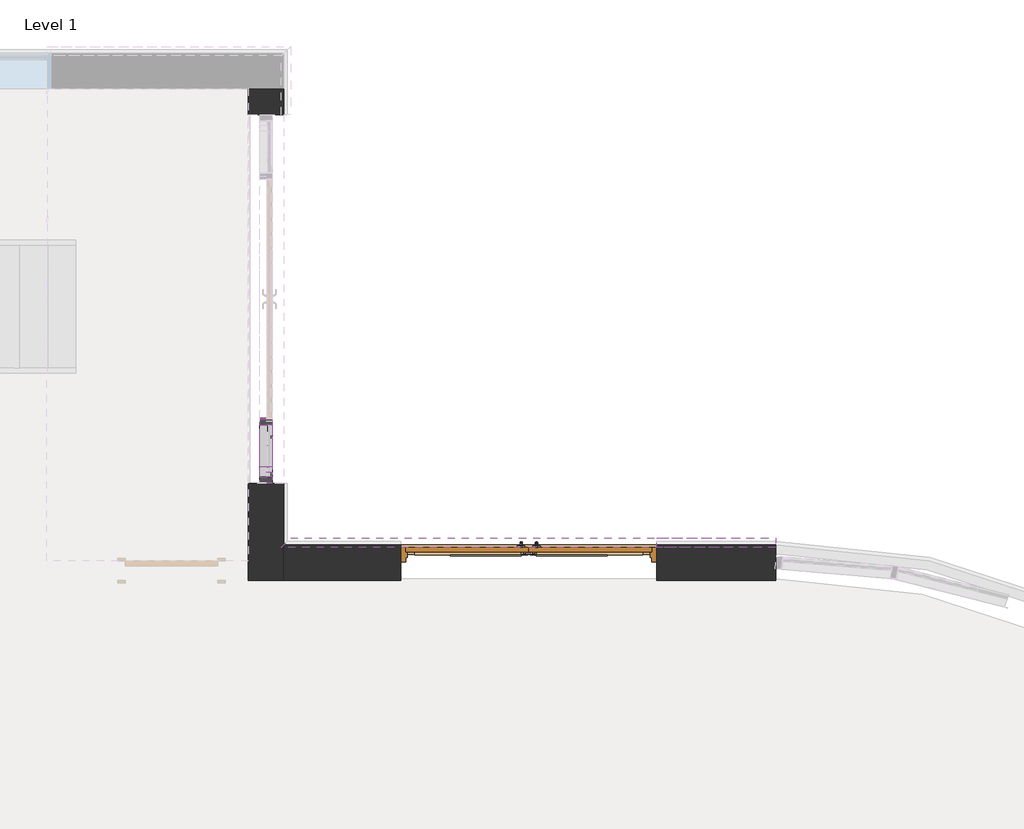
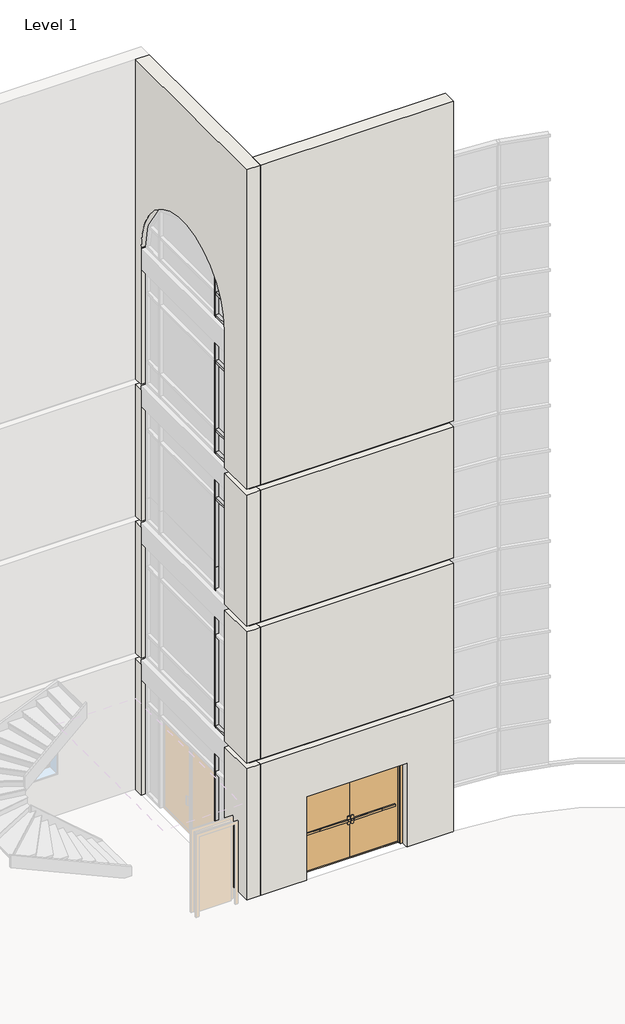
# One storey, part 11 of 20: 37 members, 3 proxies, 2 walls, 1 door.
"""IFC4 building model written with IfcOpenShell, lengths in millimetres."""

from ifc_helpers import new_model, si_unit, frame, origin, place, context, project, spatial, polyline, circle_curve, outline, extrude, faceted_brep, transform, mapped, element, save
from ifc_brep_helpers import plane_surface, revolved_surface, advanced_brep
from components import door_d5635643, member_f0fea5a5, member_ee409385, member_51170729, member_d60e8053, member_a025723f, member_aaa03826, member_47a645d3, member_cceb8e04, member_b7f7ac7a, member_94fbf6e3, member_0b7646a3, member_dad99500, member_2fae0574

model = new_model("IFC4")

# Units and contexts
model_context = context("Model", 3, world=origin())
ifc_project = project(units=[si_unit("LENGTHUNIT", "METRE", prefix="MILLI")], contexts=[model_context])

# Site, building, storey
site = spatial("IfcSite", under=ifc_project)
building = spatial("IfcBuilding", under=site)
storey = spatial("IfcBuildingStorey", under=building, Name="Level 1", Elevation=0.0)

# Proxies
placement = place(None, origin())
element("IfcBuildingElementProxy", 1, Name="Reveals", at=placement, inside=storey, context=model_context, shape_type="SweptSolid", body=[
    extrude(outline(polyline([(16760.0089721, 4783.9898319), (16760.0089721, 4876.0648319), (17937.9339721, 4876.0648319), (17937.9339721, 4783.9898319), (16760.0089721, 4783.9898319)])), frame((0.0, 0.0, 1625.6), z_axis=(0.0, 0.0, 1.0), x_axis=(1.0, 0.0, 0.0)), (0.0, 0.0, 1.0), 67.7333333),
    extrude(outline(polyline([(13035.7339721, 4783.9898319), (13127.8089721, 4876.0648319), (14220.0089721, 4876.0648319), (14220.0089721, 4783.9898319), (13035.7339721, 4783.9898319)])), frame((0.0, 0.0, 1625.6), z_axis=(0.0, 0.0, 1.0), x_axis=(1.0, 0.0, 0.0)), (0.0, 0.0, 1.0), 67.7333333),
])
element("IfcBuildingElementProxy", 2, Name="Reveals", at=placement, inside=storey, context=model_context, shape_type="SweptSolid", body=[
    extrude(outline(polyline([(13035.7339721, 4783.9898319), (13127.8089721, 4876.0648319), (17937.9339721, 4876.0648319), (17937.9339721, 4783.9898319), (13035.7339721, 4783.9898319)])), frame((0.0, 0.0, 2235.2), z_axis=(0.0, 0.0, 1.0), x_axis=(1.0, 0.0, 0.0)), (0.0, 0.0, 1.0), 67.7333333),
])
element("IfcBuildingElementProxy", 3, Name="Reveals", at=placement, inside=storey, context=model_context, shape_type="SweptSolid", body=[
    extrude(outline(polyline([(13035.7339721, 4783.9898319), (13127.8089721, 4876.0648319), (17937.9339721, 4876.0648319), (17937.9339721, 4783.9898319), (13035.7339721, 4783.9898319)])), frame((0.0, 0.0, 2844.8), z_axis=(0.0, 0.0, 1.0), x_axis=(1.0, 0.0, 0.0)), (0.0, 0.0, 1.0), 67.7333333),
])

# Door
door_shape = door_d5635643(model_context)
element("IfcDoor", 4, ObjectType="Door-Exterior-Double : 96\" x 84\"", at=placement, inside=storey, context=model_context, shape_type="MappedRepresentation", body=[
    mapped(door_shape, transform((15490.0089721, 4626.8273319, 0.0), x_axis=(1.0, 0.0, 0.0), y_axis=(0.0, 1.0, 0.0), z_axis=(0.0, 0.0, 1.0))),
])

# Members
member_shape = member_f0fea5a5(model_context)
element("IfcMember", 5, ObjectType="Rectangular Mullion : 2.5\" x 5\" rectangular", at=placement, inside=storey, context=model_context, shape_type="MappedRepresentation", body=[
    mapped(member_shape, transform((12884.9214721, 6028.5898319, 0.0), x_axis=(0.0, 1.0, 0.0), y_axis=(1.0, 0.0, 0.0), z_axis=(0.0, 0.0, -1.0))),
])
member_2_shape = member_ee409385(model_context)
element("IfcMember", 6, ObjectType="Rectangular Mullion : 2.5\" x 5\" rectangular", at=placement, inside=storey, context=model_context, shape_type="MappedRepresentation", body=[
    mapped(member_2_shape, transform((12884.9214721, 5418.9898319, 2438.4), x_axis=(0.0, -1.0, 0.0), y_axis=(1.0, 0.0, 0.0), z_axis=(0.0, 0.0, 1.0))),
])
member_3_shape = member_51170729(model_context)
element("IfcMember", 7, ObjectType="Rectangular Mullion : 2.5\" x 5\" rectangular", at=placement, inside=storey, context=model_context, shape_type="MappedRepresentation", body=[
    mapped(member_3_shape, transform((12884.9214721, 6028.5898319, 13411.2), x_axis=(0.0, 1.0, 0.0), y_axis=(1.0, 0.0, 0.0), z_axis=(0.0, 0.0, -1.0))),
])
element("IfcMember", 8, ObjectType="Rectangular Mullion : 2.5\" x 5\" rectangular", at=placement, inside=storey, context=model_context, shape_type="MappedRepresentation", body=[
    mapped(member_3_shape, transform((12884.9214721, 6028.5898319, 9753.6), x_axis=(0.0, 1.0, 0.0), y_axis=(1.0, 0.0, 0.0), z_axis=(0.0, 0.0, -1.0))),
])
element("IfcMember", 9, ObjectType="Rectangular Mullion : 2.5\" x 5\" rectangular", at=placement, inside=storey, context=model_context, shape_type="MappedRepresentation", body=[
    mapped(member_3_shape, transform((12884.9214721, 6028.5898319, 6096.0), x_axis=(0.0, 1.0, 0.0), y_axis=(1.0, 0.0, 0.0), z_axis=(0.0, 0.0, -1.0))),
])
element("IfcMember", 10, ObjectType="Rectangular Mullion : 2.5\" x 5\" rectangular", at=placement, inside=storey, context=model_context, shape_type="MappedRepresentation", body=[
    mapped(member_3_shape, transform((12884.9214721, 6028.5898319, 2438.4), x_axis=(0.0, 1.0, 0.0), y_axis=(1.0, 0.0, 0.0), z_axis=(0.0, 0.0, -1.0))),
])
member_4_shape = member_d60e8053(model_context)
element("IfcMember", 11, ObjectType="Rectangular Mullion : 2.5\" x 5\" rectangular", at=placement, inside=storey, context=model_context, shape_type="MappedRepresentation", body=[
    mapped(member_4_shape, transform((12884.9214721, 6028.5898319, 11582.4), x_axis=(0.0, 1.0, 0.0), y_axis=(1.0, 0.0, 0.0), z_axis=(0.0, 0.0, -1.0))),
])
element("IfcMember", 12, ObjectType="Rectangular Mullion : 2.5\" x 5\" rectangular", at=placement, inside=storey, context=model_context, shape_type="MappedRepresentation", body=[
    mapped(member_4_shape, transform((12884.9214721, 6028.5898319, 4267.2), x_axis=(0.0, 1.0, 0.0), y_axis=(1.0, 0.0, 0.0), z_axis=(0.0, 0.0, -1.0))),
])
element("IfcMember", 13, ObjectType="Rectangular Mullion : 2.5\" x 5\" rectangular", at=placement, inside=storey, context=model_context, shape_type="MappedRepresentation", body=[
    mapped(member_4_shape, transform((12884.9214721, 6028.5898319, 7924.8), x_axis=(0.0, 1.0, 0.0), y_axis=(1.0, 0.0, 0.0), z_axis=(0.0, 0.0, -1.0))),
])
element("IfcMember", 14, ObjectType="Rectangular Mullion : 2.5\" x 5\" rectangular", at=placement, inside=storey, context=model_context, shape_type="MappedRepresentation", body=[
    mapped(member_3_shape, transform((12884.9214721, 6028.5898319, 14598.65), x_axis=(0.0, 1.0, 0.0), y_axis=(1.0, 0.0, 0.0), z_axis=(0.0, 0.0, -1.0))),
])
element("IfcMember", 15, ObjectType="Rectangular Mullion : 2.5\" x 5\" rectangular", at=placement, inside=storey, context=model_context, shape_type="MappedRepresentation", body=[
    mapped(member_3_shape, transform((12884.9214721, 6028.5898319, 10941.05), x_axis=(0.0, 1.0, 0.0), y_axis=(1.0, 0.0, 0.0), z_axis=(0.0, 0.0, -1.0))),
])
element("IfcMember", 16, ObjectType="Rectangular Mullion : 2.5\" x 5\" rectangular", at=placement, inside=storey, context=model_context, shape_type="MappedRepresentation", body=[
    mapped(member_3_shape, transform((12884.9214721, 6028.5898319, 3625.85), x_axis=(0.0, 1.0, 0.0), y_axis=(1.0, 0.0, 0.0), z_axis=(0.0, 0.0, -1.0))),
])
element("IfcMember", 17, ObjectType="Rectangular Mullion : 2.5\" x 5\" rectangular", at=placement, inside=storey, context=model_context, shape_type="MappedRepresentation", body=[
    mapped(member_3_shape, transform((12884.9214721, 6028.5898319, 7283.45), x_axis=(0.0, 1.0, 0.0), y_axis=(1.0, 0.0, 0.0), z_axis=(0.0, 0.0, -1.0))),
])
member_5_shape = member_a025723f(model_context)
element("IfcMember", 18, ObjectType="Rectangular Mullion : 2.5\" x 5\" rectangular", at=placement, inside=storey, context=model_context, shape_type="MappedRepresentation", body=[
    mapped(member_5_shape, transform((12884.9214721, 6028.5898319, 15240.0), x_axis=(0.0, 1.0, 0.0), y_axis=(1.0, 0.0, 0.0), z_axis=(0.0, 0.0, -1.0))),
])
member_6_shape = member_aaa03826(model_context)
element("IfcMember", 19, ObjectType="Rectangular Mullion : 2.5\" x 5\" rectangular", at=placement, inside=storey, context=model_context, shape_type="MappedRepresentation", body=[
    mapped(member_6_shape, transform((12884.9214721, 5996.8398319, 3657.6), x_axis=(0.0, 0.0, 1.0), y_axis=(1.0, 0.0, 0.0), z_axis=(0.0, 1.0, 0.0))),
])
element("IfcMember", 20, ObjectType="Rectangular Mullion : 2.5\" x 5\" rectangular", at=placement, inside=storey, context=model_context, shape_type="MappedRepresentation", body=[
    mapped(member_6_shape, transform((12884.9214721, 5996.8398319, 3048.0), x_axis=(0.0, 0.0, 1.0), y_axis=(1.0, 0.0, 0.0), z_axis=(0.0, 1.0, 0.0))),
])
element("IfcMember", 21, ObjectType="Rectangular Mullion : 2.5\" x 5\" rectangular", at=placement, inside=storey, context=model_context, shape_type="MappedRepresentation", body=[
    mapped(member_6_shape, transform((12884.9214721, 5996.8398319, 9753.6), x_axis=(0.0, 0.0, 1.0), y_axis=(1.0, 0.0, 0.0), z_axis=(0.0, 1.0, 0.0))),
])
element("IfcMember", 22, ObjectType="Rectangular Mullion : 2.5\" x 5\" rectangular", at=placement, inside=storey, context=model_context, shape_type="MappedRepresentation", body=[
    mapped(member_6_shape, transform((12884.9214721, 5996.8398319, 10363.2), x_axis=(0.0, 0.0, 1.0), y_axis=(1.0, 0.0, 0.0), z_axis=(0.0, 1.0, 0.0))),
])
element("IfcMember", 23, ObjectType="Rectangular Mullion : 2.5\" x 5\" rectangular", at=placement, inside=storey, context=model_context, shape_type="MappedRepresentation", body=[
    mapped(member_6_shape, transform((12884.9214721, 5996.8398319, 10972.8), x_axis=(0.0, 0.0, 1.0), y_axis=(1.0, 0.0, 0.0), z_axis=(0.0, 1.0, 0.0))),
])
element("IfcMember", 24, ObjectType="Rectangular Mullion : 2.5\" x 5\" rectangular", at=placement, inside=storey, context=model_context, shape_type="MappedRepresentation", body=[
    mapped(member_6_shape, transform((12884.9214721, 5996.8398319, 11582.4), x_axis=(0.0, 0.0, 1.0), y_axis=(1.0, 0.0, 0.0), z_axis=(0.0, 1.0, 0.0))),
])
element("IfcMember", 25, ObjectType="Rectangular Mullion : 2.5\" x 5\" rectangular", at=placement, inside=storey, context=model_context, shape_type="MappedRepresentation", body=[
    mapped(member_6_shape, transform((12884.9214721, 5996.8398319, 13411.2), x_axis=(0.0, 0.0, 1.0), y_axis=(1.0, 0.0, 0.0), z_axis=(0.0, 1.0, 0.0))),
])
element("IfcMember", 26, ObjectType="Rectangular Mullion : 2.5\" x 5\" rectangular", at=placement, inside=storey, context=model_context, shape_type="MappedRepresentation", body=[
    mapped(member_6_shape, transform((12884.9214721, 5996.8398319, 14020.8), x_axis=(0.0, 0.0, 1.0), y_axis=(1.0, 0.0, 0.0), z_axis=(0.0, 1.0, 0.0))),
])
member_7_shape = member_47a645d3(model_context)
element("IfcMember", 27, ObjectType="Rectangular Mullion : 2.5\" x 5\" rectangular", at=placement, inside=storey, context=model_context, shape_type="MappedRepresentation", body=[
    mapped(member_7_shape, transform((12884.9214721, 5996.8398319, 14630.4), x_axis=(0.0, 0.0, 1.0), y_axis=(1.0, 0.0, 0.0), z_axis=(0.0, 1.0, 0.0))),
])
member_8_shape = member_cceb8e04(model_context)
element("IfcMember", 28, ObjectType="Rectangular Mullion : 2.5\" x 5\" rectangular", at=placement, inside=storey, context=model_context, shape_type="MappedRepresentation", body=[
    mapped(member_8_shape, transform((12884.9214721, 5996.8398319, 15240.0), x_axis=(0.0, 0.0, 1.0), y_axis=(1.0, 0.0, 0.0), z_axis=(0.0, 1.0, 0.0))),
])
member_9_shape = member_b7f7ac7a(model_context)
element("IfcMember", 29, ObjectType="Rectangular Mullion : 2.5\" x 5\" rectangular", at=placement, inside=storey, context=model_context, shape_type="MappedRepresentation", body=[
    mapped(member_9_shape, transform((12884.9214721, 5523.5806567, 15240.0), x_axis=(0.0, -0.9428090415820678, 0.33333333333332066), y_axis=(1.0, 0.0, 0.0), z_axis=(0.0, 0.33333333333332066, 0.9428090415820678))),
])
member_10_shape = member_94fbf6e3(model_context)
element("IfcMember", 30, ObjectType="Rectangular Mullion : 2.5\" x 5\" rectangular", at=placement, inside=storey, context=model_context, shape_type="MappedRepresentation", body=[
    mapped(member_10_shape, transform((12884.9214721, 6028.5898319, 15993.5070391), x_axis=(0.0, -0.6666666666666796, 0.7453559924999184), y_axis=(1.0, 0.0, 0.0), z_axis=(0.0, 0.7453559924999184, 0.6666666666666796))),
])
member_11_shape = member_0b7646a3(model_context)
element("IfcMember", 31, ObjectType="Rectangular Mullion : 2.5\" x 5\" rectangular", at=placement, inside=storey, context=model_context, shape_type="MappedRepresentation", body=[
    mapped(member_11_shape, transform((12884.9214721, 5482.4898319, 0.0), x_axis=(0.0, 0.0, -1.0), y_axis=(1.0, 0.0, 0.0), z_axis=(0.0, -1.0, 0.0))),
])
member_12_shape = member_dad99500(model_context)
element("IfcMember", 32, ObjectType="Rectangular Mullion : 2.5\" x 5\" rectangular", at=placement, inside=storey, context=model_context, shape_type="MappedRepresentation", body=[
    mapped(member_12_shape, transform((12884.9214721, 5418.9898319, 11582.4), x_axis=(0.0, -1.0, 0.0), y_axis=(1.0, 0.0, 0.0), z_axis=(0.0, 0.0, 1.0))),
])
element("IfcMember", 33, ObjectType="Rectangular Mullion : 2.5\" x 5\" rectangular", at=placement, inside=storey, context=model_context, shape_type="MappedRepresentation", body=[
    mapped(member_12_shape, transform((12884.9214721, 5418.9898319, 4267.2), x_axis=(0.0, -1.0, 0.0), y_axis=(1.0, 0.0, 0.0), z_axis=(0.0, 0.0, 1.0))),
])
member_13_shape = member_2fae0574(model_context)
element("IfcMember", 34, ObjectType="Rectangular Mullion : 2.5\" x 5\" rectangular", at=placement, inside=storey, context=model_context, shape_type="MappedRepresentation", body=[
    mapped(member_13_shape, transform((12884.9214721, 5418.9898319, 13411.2), x_axis=(0.0, -1.0, 0.0), y_axis=(1.0, 0.0, 0.0), z_axis=(0.0, 0.0, 1.0))),
])
element("IfcMember", 35, ObjectType="Rectangular Mullion : 2.5\" x 5\" rectangular", at=placement, inside=storey, context=model_context, shape_type="MappedRepresentation", body=[
    mapped(member_13_shape, transform((12884.9214721, 5418.9898319, 6096.0), x_axis=(0.0, -1.0, 0.0), y_axis=(1.0, 0.0, 0.0), z_axis=(0.0, 0.0, 1.0))),
])
element("IfcMember", 36, ObjectType="Rectangular Mullion : 2.5\" x 5\" rectangular", at=placement, inside=storey, context=model_context, shape_type="MappedRepresentation", body=[
    mapped(member_12_shape, transform((12884.9214721, 5418.9898319, 14052.55), x_axis=(0.0, -1.0, 0.0), y_axis=(1.0, 0.0, 0.0), z_axis=(0.0, 0.0, 1.0))),
])
element("IfcMember", 37, ObjectType="Rectangular Mullion : 2.5\" x 5\" rectangular", at=placement, inside=storey, context=model_context, shape_type="MappedRepresentation", body=[
    mapped(member_12_shape, transform((12884.9214721, 5418.9898319, 10394.95), x_axis=(0.0, -1.0, 0.0), y_axis=(1.0, 0.0, 0.0), z_axis=(0.0, 0.0, 1.0))),
])
element("IfcMember", 38, ObjectType="Rectangular Mullion : 2.5\" x 5\" rectangular", at=placement, inside=storey, context=model_context, shape_type="MappedRepresentation", body=[
    mapped(member_12_shape, transform((12884.9214721, 5418.9898319, 6737.35), x_axis=(0.0, -1.0, 0.0), y_axis=(1.0, 0.0, 0.0), z_axis=(0.0, 0.0, 1.0))),
])
element("IfcMember", 39, ObjectType="Rectangular Mullion : 2.5\" x 5\" rectangular", at=placement, inside=storey, context=model_context, shape_type="MappedRepresentation", body=[
    mapped(member_12_shape, transform((12884.9214721, 5418.9898319, 3079.75), x_axis=(0.0, -1.0, 0.0), y_axis=(1.0, 0.0, 0.0), z_axis=(0.0, 0.0, 1.0))),
])
element("IfcMember", 40, ObjectType="Rectangular Mullion : 2.5\" x 5\" rectangular", at=placement, inside=storey, context=model_context, shape_type="MappedRepresentation", body=[
    mapped(member_12_shape, transform((12884.9214721, 5418.9898319, 7924.8), x_axis=(0.0, -1.0, 0.0), y_axis=(1.0, 0.0, 0.0), z_axis=(0.0, 0.0, 1.0))),
])
element("IfcMember", 41, ObjectType="Rectangular Mullion : 2.5\" x 5\" rectangular", at=placement, inside=storey, context=model_context, shape_type="MappedRepresentation", body=[
    mapped(member_13_shape, transform((12884.9214721, 5418.9898319, 9753.6), x_axis=(0.0, -1.0, 0.0), y_axis=(1.0, 0.0, 0.0), z_axis=(0.0, 0.0, 1.0))),
])

# Walls
element("IfcWall", 42, ObjectType="Exterior - Brick and CMU on MTL. Stud", at=placement, inside=storey, context=model_context, shape_type="AdvancedBrep", body=[
    advanced_brep(
    [(12708.7089721, 4456.9648319, 19507.2), (12708.7089721, 9333.7648319, 19507.2), (12708.7089721, 9333.7648319, 10972.8), (12708.7089721, 9076.5898319, 10972.8), (12708.7089721, 9076.5898319, 14630.4), (12708.7089721, 5418.9898319, 14630.4), (12708.7089721, 5418.9898319, 10972.8), (12708.7089721, 4456.9648319, 10972.8), (12708.7089721, 4456.9648319, 18288.0), (12708.7089721, 9333.7648319, 3505.2), (12708.7089721, 9333.7648319, 0.0), (12708.7089721, 9076.5898319, 0.0), (12708.7089721, 9076.5898319, 3505.2), (12708.7089721, 9333.7648319, 3657.6), (12708.7089721, 9076.5898319, 3657.6), (12708.7089721, 9076.5898319, 7162.8), (12708.7089721, 9333.7648319, 7162.8), (12708.7089721, 9333.7648319, 7315.2), (12708.7089721, 9076.5898319, 7315.2), (12708.7089721, 9076.5898319, 10820.4), (12708.7089721, 9333.7648319, 10820.4), (12708.7089721, 4456.9648319, 0.0), (12708.7089721, 4456.9648319, 3505.2), (12708.7089721, 5418.9898319, 3505.2), (12708.7089721, 5418.9898319, 0.0), (12708.7089721, 4650.6398319, 0.0), (12708.7089721, 4456.9648319, 3657.6), (12708.7089721, 4456.9648319, 7162.8), (12708.7089721, 5418.9898319, 7162.8), (12708.7089721, 5418.9898319, 3657.6), (12708.7089721, 5418.9898319, 7315.2), (12708.7089721, 4456.9648319, 7315.2), (12708.7089721, 4456.9648319, 10820.4), (12708.7089721, 5418.9898319, 10820.4), (13061.1339721, 9076.5898319, 1693.3333333), (13061.1339721, 9333.7648319, 1693.3333333), (13061.1339721, 9333.7648319, 2235.2), (13061.1339721, 9076.5898319, 2235.2), (13061.1339721, 9333.7648319, 1625.6), (13061.1339721, 9076.5898319, 1625.6), (13061.1339721, 9076.5898319, 1085.85), (13061.1339721, 9333.7648319, 1085.85), (13061.1339721, 9076.5898319, 2302.9333333), (13061.1339721, 9333.7648319, 2302.9333333), (13061.1339721, 9333.7648319, 2844.8), (13061.1339721, 9076.5898319, 2844.8), (13061.1339721, 9333.7648319, 0.0), (13061.1339721, 9333.7648319, 1016.0), (13061.1339721, 9076.5898319, 1016.0), (13061.1339721, 9076.5898319, 0.0), (13061.1339721, 9333.7648319, 19507.2), (13061.1339721, 4809.3898319, 19507.2), (13061.1339721, 4456.9648319, 19507.2), (13061.1339721, 4456.9648319, 10972.8), (13061.1339721, 4622.0648319, 10972.8), (13061.1339721, 4622.0648319, 10820.4), (13061.1339721, 4456.9648319, 10820.4), (13061.1339721, 4456.9648319, 7315.2), (13061.1339721, 4622.0648319, 7315.2), (13061.1339721, 4622.0648319, 7162.8), (13061.1339721, 4456.9648319, 7162.8), (13061.1339721, 4456.9648319, 3657.6), (13061.1339721, 4622.0648319, 3657.6), (13061.1339721, 4622.0648319, 3505.2), (13061.1339721, 4456.9648319, 3505.2), (13061.1339721, 4456.9648319, 0.0), (13061.1339721, 4809.3898319, 0.0), (13061.1339721, 5418.9898319, 0.0), (13061.1339721, 5418.9898319, 1016.0), (13061.1339721, 4809.3898319, 1016.0), (13061.1339721, 4717.3148319, 1016.0), (13061.1339721, 4717.3148319, 1085.85), (13061.1339721, 4809.3898319, 1085.85), (13061.1339721, 5418.9898319, 1085.85), (13061.1339721, 5418.9898319, 1625.6), (13061.1339721, 4809.3898319, 1625.6), (13061.1339721, 4783.9898319, 1625.6), (13061.1339721, 4783.9898319, 1693.3333333), (13061.1339721, 4809.3898319, 1693.3333333), (13061.1339721, 5418.9898319, 1693.3333333), (13061.1339721, 5418.9898319, 2235.2), (13061.1339721, 4809.3898319, 2235.2), (13061.1339721, 4783.9898319, 2235.2), (13061.1339721, 4783.9898319, 2302.9333333), (13061.1339721, 4809.3898319, 2302.9333333), (13061.1339721, 5418.9898319, 2302.9333333), (13061.1339721, 5418.9898319, 2844.8), (13061.1339721, 4809.3898319, 2844.8), (13061.1339721, 4783.9898319, 2844.8), (13061.1339721, 4783.9898319, 2912.5333333), (13061.1339721, 4809.3898319, 2912.5333333), (13061.1339721, 5418.9898319, 2912.5333333), (13061.1339721, 5418.9898319, 14630.4), (13061.1339721, 9076.5898319, 14630.4), (13061.1339721, 9076.5898319, 2912.5333333), (13061.1339721, 9333.7648319, 2912.5333333), (13061.1339721, 9333.7648319, 19100.8), (13061.1339721, 4809.3898319, 19100.8), (13061.1339721, 4717.3148319, 19100.8), (13061.1339721, 4717.3148319, 19304.0), (13061.1339721, 4809.3898319, 19304.0), (13061.1339721, 9333.7648319, 19304.0), (12969.0589721, 9333.7648319, 0.0), (12969.0589721, 9076.5898319, 0.0), (12969.0589721, 4456.9648319, 0.0), (12969.0589721, 5418.9898319, 0.0), (13035.7339721, 4783.9898319, 1693.3333333), (13035.7339721, 5418.9898319, 1693.3333333), (13035.7339721, 5418.9898319, 1625.6), (13035.7339721, 4783.9898319, 1625.6), (13035.7339721, 4783.9898319, 2302.9333333), (13035.7339721, 5418.9898319, 2302.9333333), (13035.7339721, 5418.9898319, 2235.2), (13035.7339721, 4783.9898319, 2235.2), (13035.7339721, 4783.9898319, 2912.5333333), (13035.7339721, 5418.9898319, 2912.5333333), (13035.7339721, 5418.9898319, 2844.8), (13035.7339721, 4783.9898319, 2844.8), (12969.0589721, 4717.3148319, 1085.85), (12969.0589721, 5418.9898319, 1085.85), (12969.0589721, 5418.9898319, 1016.0), (12969.0589721, 4717.3148319, 1016.0), (12969.0589721, 4717.3148319, 19100.8), (12969.0589721, 9333.7648319, 19100.8), (12969.0589721, 9333.7648319, 19304.0), (12969.0589721, 4717.3148319, 19304.0), (13035.7339721, 9333.7648319, 2912.5333333), (13035.7339721, 9333.7648319, 2844.8), (13035.7339721, 9333.7648319, 2302.9333333), (13035.7339721, 9333.7648319, 2235.2), (13035.7339721, 9333.7648319, 1693.3333333), (13035.7339721, 9333.7648319, 1625.6), (12969.0589721, 9333.7648319, 1085.85), (12969.0589721, 9333.7648319, 1016.0), (12873.8089721, 9333.7648319, 3505.2), (12873.8089721, 9333.7648319, 3657.6), (12873.8089721, 9333.7648319, 7162.8), (12873.8089721, 9333.7648319, 7315.2), (12873.8089721, 9333.7648319, 10820.4), (12873.8089721, 9333.7648319, 10972.8), (13035.7339721, 9076.5898319, 1693.3333333), (13035.7339721, 9076.5898319, 1625.6), (13035.7339721, 9076.5898319, 2302.9333333), (13035.7339721, 9076.5898319, 2235.2), (13035.7339721, 9076.5898319, 2912.5333333), (13035.7339721, 9076.5898319, 2844.8), (12969.0589721, 9076.5898319, 1085.85), (12969.0589721, 9076.5898319, 1016.0), (12873.8089721, 9076.5898319, 3505.2), (12873.8089721, 4622.0648319, 3505.2), (12873.8089721, 5418.9898319, 3505.2), (12873.8089721, 9076.5898319, 3657.6), (12873.8089721, 4622.0648319, 3657.6), (12898.1548084, 4456.9648319, 3657.6), (12873.8089721, 5418.9898319, 3657.6), (12873.8089721, 9076.5898319, 7162.8), (12873.8089721, 4622.0648319, 7162.8), (12873.8089721, 5418.9898319, 7162.8), (12898.1548084, 4456.9648319, 7162.8), (12873.8089721, 9076.5898319, 7315.2), (12873.8089721, 4622.0648319, 7315.2), (12873.8089721, 5418.9898319, 7315.2), (12873.8089721, 4622.0648319, 10820.4), (12873.8089721, 5418.9898319, 10820.4), (12873.8089721, 9076.5898319, 10820.4), (12873.8089721, 5418.9898319, 10972.8), (12873.8089721, 4622.0648319, 10972.8), (12873.8089721, 9076.5898319, 10972.8)],
    [
        (0, 1),
        (1, 2),
        (2, 3),
        (3, 4),
        (4, 5, circle_curve(frame((12708.7089721, 7247.7898319, 14630.4), z_axis=(1.0, 0.0, 0.0), x_axis=(0.0, -1.0, 0.0)), 1828.8)),
        (5, 6),
        (6, 7),
        (7, 8),
        (8, 0),
        (9, 10),
        (10, 11),
        (11, 12),
        (12, 9),
        (13, 14),
        (14, 15),
        (15, 16),
        (16, 13),
        (17, 18),
        (18, 19),
        (19, 20),
        (20, 17),
        (21, 22),
        (22, 23),
        (23, 24),
        (24, 25),
        (25, 21),
        (26, 27),
        (27, 28),
        (28, 29),
        (29, 26),
        (30, 31),
        (31, 32),
        (32, 33),
        (33, 30),
        (34, 35),
        (35, 36),
        (36, 37),
        (37, 34),
        (38, 39),
        (39, 40),
        (40, 41),
        (41, 38),
        (42, 43),
        (43, 44),
        (44, 45),
        (45, 42),
        (46, 47),
        (47, 48),
        (48, 49),
        (49, 46),
        (50, 51),
        (51, 52),
        (52, 53),
        (53, 54),
        (54, 55),
        (55, 56),
        (56, 57),
        (57, 58),
        (58, 59),
        (59, 60),
        (60, 61),
        (61, 62),
        (62, 63),
        (63, 64),
        (64, 65),
        (65, 66),
        (66, 67),
        (67, 68),
        (68, 69),
        (69, 70),
        (70, 71),
        (71, 72),
        (72, 73),
        (73, 74),
        (74, 75),
        (75, 76),
        (76, 77),
        (77, 78),
        (78, 79),
        (79, 80),
        (80, 81),
        (81, 82),
        (82, 83),
        (83, 84),
        (84, 85),
        (85, 86),
        (86, 87),
        (87, 88),
        (88, 89),
        (89, 90),
        (90, 91),
        (91, 92),
        (92, 93, circle_curve(frame((13061.1339721, 7247.7898319, 14630.4), z_axis=(-1.0, 0.0, 0.0), x_axis=(0.0, -1.0, 0.0)), 1828.8)),
        (93, 94),
        (94, 95),
        (95, 96),
        (96, 97),
        (97, 98),
        (98, 99),
        (99, 100),
        (100, 101),
        (101, 50),
        (0, 52),
        (50, 1),
        (10, 102),
        (102, 103),
        (103, 11),
        (104, 21),
        (24, 105),
        (105, 104),
        (106, 107),
        (107, 79),
        (77, 106),
        (108, 109),
        (109, 76),
        (74, 108),
        (106, 109),
        (108, 107),
        (110, 111),
        (111, 85),
        (83, 110),
        (112, 113),
        (113, 82),
        (80, 112),
        (110, 113),
        (112, 111),
        (114, 115),
        (115, 91),
        (89, 114),
        (116, 117),
        (117, 88),
        (86, 116),
        (114, 117),
        (116, 115),
        (118, 119),
        (119, 73),
        (71, 118),
        (120, 121),
        (121, 70),
        (68, 120),
        (118, 121),
        (120, 119),
        (122, 123),
        (123, 124),
        (124, 125),
        (125, 122),
        (101, 124),
        (123, 96),
        (95, 126),
        (126, 127),
        (127, 44),
        (43, 128),
        (128, 129),
        (129, 36),
        (35, 130),
        (130, 131),
        (131, 38),
        (41, 132),
        (132, 133),
        (133, 47),
        (46, 102),
        (9, 134),
        (134, 135),
        (135, 13),
        (16, 136),
        (136, 137),
        (137, 17),
        (20, 138),
        (138, 139),
        (139, 2),
        (49, 103),
        (65, 104),
        (105, 67),
        (34, 140),
        (140, 130),
        (131, 141),
        (141, 39),
        (42, 142),
        (142, 128),
        (129, 143),
        (143, 37),
        (94, 144),
        (144, 126),
        (127, 145),
        (145, 45),
        (40, 146),
        (146, 132),
        (133, 147),
        (147, 48),
        (122, 98),
        (99, 125),
        (12, 148),
        (148, 134),
        (63, 149),
        (149, 150),
        (150, 23),
        (22, 64),
        (135, 151),
        (151, 14),
        (152, 62),
        (61, 153),
        (153, 26),
        (29, 154),
        (154, 152),
        (148, 151),
        (149, 152),
        (154, 150),
        (15, 155),
        (155, 136),
        (59, 156),
        (156, 157),
        (157, 28),
        (27, 158),
        (158, 60),
        (137, 159),
        (159, 18),
        (160, 58),
        (57, 31),
        (30, 161),
        (161, 160),
        (155, 159),
        (156, 160),
        (161, 157),
        (55, 162),
        (162, 163),
        (163, 33),
        (32, 56),
        (164, 138),
        (19, 164),
        (165, 166),
        (166, 54),
        (53, 7),
        (6, 165),
        (139, 167),
        (167, 3),
        (162, 166),
        (165, 163),
        (164, 167),
        (5, 92),
        (4, 93),
        (147, 146),
        (141, 140),
        (143, 142),
        (145, 144),
    ],
    [
        plane_surface(frame((12708.7089721, 9686.1898319, 0.0), z_axis=(-1.0, 0.0, 0.0), x_axis=(0.0, -1.0, 0.0))),
        plane_surface(frame((13061.1339721, 9686.1898319, 0.0), z_axis=(1.0, 0.0, 0.0), x_axis=(0.0, 1.0, 0.0))),
        plane_surface(frame((12708.7089721, 4553.8023319, 19507.2), z_axis=(0.0, 0.0, 1.0), x_axis=(1.0, 0.0, 0.0))),
        plane_surface(frame((12708.7089721, 9509.9773319, 0.0), z_axis=(0.0, 0.0, -1.0), x_axis=(1.0, 0.0, 0.0))),
        plane_surface(frame((13035.7339721, 5418.9898319, 1693.3333333), z_axis=(0.0, 0.0, -1.0), x_axis=(0.0, -1.0, 0.0))),
        plane_surface(frame((13127.8089721, 5418.9898319, 1625.6), z_axis=(0.0, 0.0, 1.0), x_axis=(0.0, -1.0, 0.0))),
        plane_surface(frame((13035.7339721, 5418.9898319, 1625.6), z_axis=(1.0, 0.0, 0.0), x_axis=(0.0, -1.0, 0.0))),
        plane_surface(frame((13035.7339721, 5418.9898319, 2302.9333333), z_axis=(0.0, 0.0, -1.0), x_axis=(0.0, -1.0, 0.0))),
        plane_surface(frame((13127.8089721, 5418.9898319, 2235.2), z_axis=(0.0, 0.0, 1.0), x_axis=(0.0, -1.0, 0.0))),
        plane_surface(frame((13035.7339721, 5418.9898319, 2235.2), z_axis=(1.0, 0.0, 0.0), x_axis=(0.0, -1.0, 0.0))),
        plane_surface(frame((13035.7339721, 5418.9898319, 2912.5333333), z_axis=(0.0, 0.0, -1.0), x_axis=(0.0, -1.0, 0.0))),
        plane_surface(frame((13127.8089721, 5418.9898319, 2844.8), z_axis=(0.0, 0.0, 1.0), x_axis=(0.0, -1.0, 0.0))),
        plane_surface(frame((13035.7339721, 5418.9898319, 2844.8), z_axis=(1.0, 0.0, 0.0), x_axis=(0.0, -1.0, 0.0))),
        plane_surface(frame((12969.0589721, 5418.9898319, 1085.85), z_axis=(0.0, 0.0, -1.0), x_axis=(0.0, -1.0, 0.0))),
        plane_surface(frame((13096.0589721, 5418.9898319, 1016.0), z_axis=(0.0, 0.0, 1.0), x_axis=(0.0, -1.0, 0.0))),
        plane_surface(frame((12969.0589721, 5418.9898319, 1016.0), z_axis=(1.0, 0.0, 0.0), x_axis=(0.0, -1.0, 0.0))),
        plane_surface(frame((12969.0589721, 9594.1148319, 19100.8), z_axis=(1.0, 0.0, 0.0), x_axis=(0.0, -1.0, 0.0))),
        plane_surface(frame((-17418.8660279, 9333.7648319, 0.0), z_axis=(0.0, 1.0, 0.0), x_axis=(1.0, 0.0, 0.0))),
        plane_surface(frame((0.0, 0.0, 0.0), z_axis=(0.0, 0.0, -1.0), x_axis=(1.0, 0.0, 0.0))),
        plane_surface(frame((10753.1735554, 9660.7898319, 1693.3333333), z_axis=(0.0, 0.0, -1.0), x_axis=(1.0, 0.0, 0.0))),
        plane_surface(frame((10753.1735554, 9752.8648319, 1625.6), z_axis=(0.0, 0.0, 1.0), x_axis=(1.0, 0.0, 0.0))),
        plane_surface(frame((10753.1735554, 9660.7898319, 2302.9333333), z_axis=(0.0, 0.0, -1.0), x_axis=(1.0, 0.0, 0.0))),
        plane_surface(frame((10753.1735554, 9752.8648319, 2235.2), z_axis=(0.0, 0.0, 1.0), x_axis=(1.0, 0.0, 0.0))),
        plane_surface(frame((-17418.8660279, 9660.7898319, 2912.5333333), z_axis=(0.0, 0.0, -1.0), x_axis=(1.0, 0.0, 0.0))),
        plane_surface(frame((-17418.8660279, 9752.8648319, 2844.8), z_axis=(0.0, 0.0, 1.0), x_axis=(1.0, 0.0, 0.0))),
        plane_surface(frame((-17418.8660279, 9594.1148319, 1085.85), z_axis=(0.0, 0.0, -1.0), x_axis=(1.0, 0.0, 0.0))),
        plane_surface(frame((-17418.8660279, 9721.1148319, 1016.0), z_axis=(0.0, 0.0, 1.0), x_axis=(1.0, 0.0, 0.0))),
        plane_surface(frame((-17418.8660279, 9686.1898319, 19100.8), z_axis=(0.0, 0.0, 1.0), x_axis=(1.0, 0.0, 0.0))),
        plane_surface(frame((-17418.8660279, 9594.1148319, 19304.0), z_axis=(0.0, 0.0, -1.0), x_axis=(1.0, 0.0, 0.0))),
        plane_surface(frame((12969.0589721, 4717.3148319, 19100.8), z_axis=(0.0, 1.0, 0.0), x_axis=(1.0, 0.0, 0.0))),
        plane_surface(frame((-13408.8410279, -9522.5601681, 3505.2), z_axis=(0.0, 0.0, 1.0), x_axis=(1.0, 0.0, 0.0))),
        plane_surface(frame((-13408.8410279, -9522.5601681, 3657.6), z_axis=(0.0, 0.0, -1.0), x_axis=(-1.0, 0.0, 0.0))),
        plane_surface(frame((12873.8089721, 9498.8648319, 3505.2), z_axis=(-1.0, 0.0, 0.0), x_axis=(0.0, 0.0, 1.0))),
        plane_surface(frame((12873.8089721, 4622.0648319, 3505.2), z_axis=(0.0, -1.0, 0.0), x_axis=(0.0, 0.0, 1.0))),
        plane_surface(frame((-17231.5410279, 9498.8648319, 7162.8), z_axis=(0.0, 0.0, 1.0), x_axis=(1.0, 0.0, 0.0))),
        plane_surface(frame((-17231.5410279, 9498.8648319, 7315.2), z_axis=(0.0, 0.0, -1.0), x_axis=(-1.0, 0.0, 0.0))),
        plane_surface(frame((12873.8089721, 9498.8648319, 7162.8), z_axis=(-1.0, 0.0, 0.0), x_axis=(0.0, 0.0, 1.0))),
        plane_surface(frame((12873.8089721, 4622.0648319, 7162.8), z_axis=(0.0, -1.0, 0.0), x_axis=(0.0, 0.0, 1.0))),
        plane_surface(frame((-17231.5410279, 9498.8648319, 10820.4), z_axis=(0.0, 0.0, 1.0), x_axis=(1.0, 0.0, 0.0))),
        plane_surface(frame((-17231.5410279, 9498.8648319, 10972.8), z_axis=(0.0, 0.0, -1.0), x_axis=(-1.0, 0.0, 0.0))),
        plane_surface(frame((12873.8089721, 9498.8648319, 10820.4), z_axis=(-1.0, 0.0, 0.0), x_axis=(0.0, 0.0, 1.0))),
        plane_surface(frame((12873.8089721, 4622.0648319, 10820.4), z_axis=(0.0, -1.0, 0.0), x_axis=(0.0, 0.0, 1.0))),
        plane_surface(frame((13061.1339721, 4456.9648319, 0.0), z_axis=(0.0, -1.0, 0.0), x_axis=(1.0, 0.0, 0.0))),
        plane_surface(frame((12556.3089721, 5418.9898319, 0.0), z_axis=(0.0, 1.0, 0.0), x_axis=(1.0, 0.0, 0.0))),
        revolved_surface(polyline([(12708.7089721, 5418.989831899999, 14630.4), (13061.1339721, 5418.989831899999, 14630.4)]), (12872.2214721, 7247.7898319, 14630.4), (-1.0, 0.0, 0.0)),
        plane_surface(frame((12556.3089721, 9076.5898319, 14630.4), z_axis=(0.0, -1.0, 0.0), x_axis=(1.0, 0.0, 0.0))),
        plane_surface(frame((13035.7339721, 9660.7898319, 1625.6), z_axis=(1.0, 0.0, 0.0), x_axis=(0.0, -1.0, 0.0))),
        plane_surface(frame((13035.7339721, 4783.9898319, 1625.6), z_axis=(0.0, 1.0, 0.0), x_axis=(1.0, 0.0, 0.0))),
        plane_surface(frame((13035.7339721, 9660.7898319, 2235.2), z_axis=(1.0, 0.0, 0.0), x_axis=(0.0, -1.0, 0.0))),
        plane_surface(frame((13035.7339721, 4783.9898319, 2235.2), z_axis=(0.0, 1.0, 0.0), x_axis=(1.0, 0.0, 0.0))),
        plane_surface(frame((13035.7339721, 9660.7898319, 2844.8), z_axis=(1.0, 0.0, 0.0), x_axis=(0.0, -1.0, 0.0))),
        plane_surface(frame((13035.7339721, 4783.9898319, 2844.8), z_axis=(0.0, 1.0, 0.0), x_axis=(1.0, 0.0, 0.0))),
        plane_surface(frame((12969.0589721, 9594.1148319, 1016.0), z_axis=(1.0, 0.0, 0.0), x_axis=(0.0, -1.0, 0.0))),
        plane_surface(frame((12969.0589721, 4717.3148319, 1016.0), z_axis=(0.0, 1.0, 0.0), x_axis=(1.0, 0.0, 0.0))),
    ],
    [
        (0, [[1, 2, 3, 4, 5, 6, 7, 8, 9]]),
        (0, [[10, 11, 12, 13]]),
        (0, [[14, 15, 16, 17]]),
        (0, [[18, 19, 20, 21]]),
        (0, [[22, 23, 24, 25, 26]]),
        (0, [[27, 28, 29, 30]]),
        (0, [[31, 32, 33, 34]]),
        (1, [[35, 36, 37, 38]]),
        (1, [[39, 40, 41, 42]]),
        (1, [[43, 44, 45, 46]]),
        (1, [[47, 48, 49, 50]]),
        (1, [[51, 52, 53, 54, 55, 56, 57, 58, 59, 60, 61, 62, 63, 64, 65, 66, 67, 68, 69, 70, 71, 72, 73, 74, 75, 76, 77, 78, 79, 80, 81, 82, 83, 84, 85, 86, 87, 88, 89, 90, 91, 92, 93, 94, 95, 96, 97, 98, 99, 100, 101, 102]]),
        (2, [[-1, 103, -52, -51, 104]]),
        (3, [[105, 106, 107, -11]]),
        (3, [[108, -26, -25, 109, 110]]),
        (4, [[111, 112, -79, -78, 113]]),
        (5, [[114, 115, -76, -75, 116]]),
        (6, [[-111, 117, -114, 118]]),
        (7, [[119, 120, -85, -84, 121]]),
        (8, [[122, 123, -82, -81, 124]]),
        (9, [[-119, 125, -122, 126]]),
        (10, [[127, 128, -91, -90, 129]]),
        (11, [[130, 131, -88, -87, 132]]),
        (12, [[-127, 133, -130, 134]]),
        (13, [[135, 136, -73, -72, 137]]),
        (14, [[138, 139, -70, -69, 140]]),
        (15, [[-135, 141, -138, 142]]),
        (16, [[143, 144, 145, 146]]),
        (17, [[-104, -102, 147, -144, 148, -96, 149, 150, 151, -44, 152, 153, 154, -36, 155, 156, 157, -42, 158, 159, 160, -47, 161, -105, -10, 162, 163, 164, -17, 165, 166, 167, -21, 168, 169, 170, -2]]),
        (18, [[-161, -50, 171, -106]]),
        (18, [[172, -110, 173, -67, -66]]),
        (19, [[-35, 174, 175, -155]]),
        (20, [[-39, -157, 176, 177]]),
        (21, [[-43, 178, 179, -152]]),
        (22, [[-37, -154, 180, 181]]),
        (23, [[-95, 182, 183, -149]]),
        (24, [[-45, -151, 184, 185]]),
        (25, [[-41, 186, 187, -158]]),
        (26, [[-48, -160, 188, 189]]),
        (27, [[-143, 190, -98, -97, -148]]),
        (28, [[-145, -147, -101, -100, 191]]),
        (29, [[-146, -191, -99, -190]]),
        (30, [[-13, 192, 193, -162]]),
        (30, [[194, 195, 196, -23, 197, -64]]),
        (31, [[-14, -164, 198, 199]]),
        (31, [[200, -62, 201, 202, -30, 203, 204]]),
        (32, [[-163, -193, 205, -198]]),
        (32, [[206, -204, 207, -195]]),
        (33, [[-206, -194, -63, -200]]),
        (34, [[-16, 208, 209, -165]]),
        (34, [[210, 211, 212, -28, 213, 214, -60]]),
        (35, [[-18, -167, 215, 216]]),
        (35, [[217, -58, 218, -31, 219, 220]]),
        (36, [[-166, -209, 221, -215]]),
        (36, [[222, -220, 223, -211]]),
        (37, [[-222, -210, -59, -217]]),
        (38, [[224, 225, 226, -33, 227, -56]]),
        (38, [[228, -168, -20, 229]]),
        (39, [[230, 231, -54, 232, -7, 233]]),
        (39, [[234, 235, -3, -170]]),
        (40, [[236, -230, 237, -225]]),
        (40, [[-228, 238, -234, -169]]),
        (41, [[-236, -224, -55, -231]]),
        (42, [[-103, -9, -8, -232, -53]]),
        (42, [[-108, -172, -65, -197, -22]]),
        (42, [[-61, -214, -213, -27, -202, -201]]),
        (42, [[-218, -57, -227, -32]]),
        (43, [[239, -92, -128, -134, -132, -86, -120, -126, -124, -80, -112, -118, -116, -74, -136, -142, -140, -68, -173, -109, -24, -196, -207, -203, -29, -212, -223, -219, -34, -226, -237, -233, -6]]),
        (44, [[-239, -5, 240, -93]]),
        (45, [[-240, -4, -235, -238, -229, -19, -216, -221, -208, -15, -199, -205, -192, -12, -107, -171, -49, -189, 241, -186, -40, -177, 242, -174, -38, -181, 243, -178, -46, -185, 244, -182, -94]]),
        (46, [[-175, -242, -176, -156]]),
        (47, [[-117, -113, -77, -115]]),
        (48, [[-179, -243, -180, -153]]),
        (49, [[-125, -121, -83, -123]]),
        (50, [[-183, -244, -184, -150]]),
        (51, [[-133, -129, -89, -131]]),
        (52, [[-187, -241, -188, -159]]),
        (53, [[-141, -137, -71, -139]]),
    ],
),
])
element("IfcWall", 43, ObjectType="Exterior - Brick and CMU on MTL. Stud", at=placement, inside=storey, context=model_context, shape_type="Brep", body=[
    faceted_brep([(17937.9339721, 4456.9648319, 19507.2), (13061.1339721, 4456.9648319, 19507.2), (13061.1339721, 4456.9648319, 10972.8), (17937.9339721, 4456.9648319, 10972.8), (17937.9339721, 4456.9648319, 17983.2), (16760.0089721, 4456.9648319, 0.0), (17937.9339721, 4456.9648319, 0.0), (17937.9339721, 4456.9648319, 1092.2), (17937.9339721, 4456.9648319, 3505.2), (13061.1339721, 4456.9648319, 3505.2), (13061.1339721, 4456.9648319, 0.0), (14220.0089721, 4456.9648319, 0.0), (14220.0089721, 4456.9648319, 2235.2), (16760.0089721, 4456.9648319, 2235.2), (13061.1339721, 4456.9648319, 3657.6), (17937.9339721, 4456.9648319, 3657.6), (17937.9339721, 4456.9648319, 7162.8), (13061.1339721, 4456.9648319, 7162.8), (13061.1339721, 4456.9648319, 7315.2), (17937.9339721, 4456.9648319, 7315.2), (17937.9339721, 4456.9648319, 10820.4), (13061.1339721, 4456.9648319, 10820.4), (13061.1339721, 4809.3898319, 19507.2), (17937.9339721, 4809.3898319, 19507.2), (17937.9339721, 4809.3898319, 19304.0), (13061.1339721, 4809.3898319, 19304.0), (17937.9339721, 4809.3898319, 1693.3333333), (16760.0089721, 4809.3898319, 1693.3333333), (16760.0089721, 4809.3898319, 2235.2), (17937.9339721, 4809.3898319, 2235.2), (16760.0089721, 4809.3898319, 1625.6), (17937.9339721, 4809.3898319, 1625.6), (17937.9339721, 4809.3898319, 1092.2), (17937.9339721, 4809.3898319, 1085.85), (16760.0089721, 4809.3898319, 1085.85), (17937.9339721, 4809.3898319, 2844.8), (17937.9339721, 4809.3898319, 2302.9333333), (13061.1339721, 4809.3898319, 2302.9333333), (13061.1339721, 4809.3898319, 2844.8), (14220.0089721, 4809.3898319, 1693.3333333), (13061.1339721, 4809.3898319, 1693.3333333), (13061.1339721, 4809.3898319, 2235.2), (14220.0089721, 4809.3898319, 2235.2), (13061.1339721, 4809.3898319, 1625.6), (14220.0089721, 4809.3898319, 1625.6), (14220.0089721, 4809.3898319, 1085.85), (13061.1339721, 4809.3898319, 1085.85), (13061.1339721, 4809.3898319, 1016.0), (14220.0089721, 4809.3898319, 1016.0), (14220.0089721, 4809.3898319, 0.0), (13061.1339721, 4809.3898319, 0.0), (17937.9339721, 4809.3898319, 1016.0), (17937.9339721, 4809.3898319, 0.0), (16760.0089721, 4809.3898319, 0.0), (16760.0089721, 4809.3898319, 1016.0), (17937.9339721, 4809.3898319, 19100.8), (17937.9339721, 4809.3898319, 17983.2), (17937.9339721, 4809.3898319, 2912.5333333), (13061.1339721, 4809.3898319, 2912.5333333), (13061.1339721, 4809.3898319, 19100.8), (17937.9339721, 4622.0648319, 10972.8), (17937.9339721, 4622.0648319, 10820.4), (17937.9339721, 4622.0648319, 7315.2), (17937.9339721, 4622.0648319, 7162.8), (17937.9339721, 4622.0648319, 3657.6), (17937.9339721, 4622.0648319, 3505.2), (17937.9339721, 4717.3148319, 0.0), (17937.9339721, 4717.3148319, 1016.0), (17937.9339721, 4717.3148319, 1085.85), (17937.9339721, 4783.9898319, 1625.6), (17937.9339721, 4783.9898319, 1693.3333333), (17937.9339721, 4783.9898319, 2235.2), (17937.9339721, 4783.9898319, 2302.9333333), (17937.9339721, 4783.9898319, 2844.8), (17937.9339721, 4783.9898319, 2912.5333333), (17937.9339721, 4717.3148319, 19100.8), (17937.9339721, 4717.3148319, 19304.0), (16760.0089721, 4717.3148319, 0.0), (13061.1339721, 4717.3148319, 0.0), (14220.0089721, 4717.3148319, 0.0), (16760.0089721, 4783.9898319, 1693.3333333), (16760.0089721, 4783.9898319, 1625.6), (16760.0089721, 4783.9898319, 2235.2), (14220.0089721, 4783.9898319, 2235.2), (13061.1339721, 4783.9898319, 2235.2), (13061.1339721, 4783.9898319, 2302.9333333), (13061.1339721, 4783.9898319, 2844.8), (13061.1339721, 4783.9898319, 2912.5333333), (16760.0089721, 4717.3148319, 1085.85), (16760.0089721, 4717.3148319, 1016.0), (13061.1339721, 4717.3148319, 19100.8), (13061.1339721, 4717.3148319, 19304.0), (14220.0089721, 4783.9898319, 1693.3333333), (13061.1339721, 4783.9898319, 1693.3333333), (13061.1339721, 4783.9898319, 1625.6), (14220.0089721, 4783.9898319, 1625.6), (14220.0089721, 4717.3148319, 1085.85), (13061.1339721, 4717.3148319, 1085.85), (13061.1339721, 4717.3148319, 1016.0), (14220.0089721, 4717.3148319, 1016.0), (13061.1339721, 4622.0648319, 3505.2), (13061.1339721, 4622.0648319, 3657.6), (13061.1339721, 4622.0648319, 7162.8), (13061.1339721, 4622.0648319, 7315.2), (13061.1339721, 4622.0648319, 10820.4), (13061.1339721, 4622.0648319, 10972.8)], [[[0, 1, 2, 3, 4]], [[5, 6, 7, 8, 9, 10, 11, 12, 13]], [[14, 15, 16, 17]], [[18, 19, 20, 21]], [[22, 23, 24, 25]], [[26, 27, 28, 29]], [[30, 31, 32, 33, 34]], [[35, 36, 37, 38]], [[39, 40, 41, 42]], [[43, 44, 45, 46]], [[47, 48, 49, 50]], [[51, 52, 53, 54]], [[55, 56, 57, 58, 59]], [[23, 0, 4, 3, 60, 61, 20, 19, 62, 63, 16, 15, 64, 65, 8, 7, 6, 66, 52, 51, 67, 68, 33, 32, 31, 69, 70, 26, 29, 71, 72, 36, 35, 73, 74, 57, 56, 55, 75, 76, 24]], [[1, 0, 23, 22]], [[66, 6, 5, 77]], [[10, 78, 79, 11]], [[70, 80, 27, 26]], [[81, 69, 31, 30]], [[80, 70, 69, 81]], [[72, 71, 82, 83, 84, 85]], [[74, 73, 86, 87]], [[68, 88, 34, 33]], [[89, 67, 51, 54]], [[88, 68, 67, 89]], [[76, 75, 90, 91]], [[52, 66, 77, 53]], [[78, 50, 49, 79]], [[40, 39, 92, 93]], [[44, 43, 94, 95]], [[72, 85, 37, 36]], [[82, 71, 29, 28]], [[41, 84, 83, 42]], [[74, 87, 58, 57]], [[86, 73, 35, 38]], [[46, 45, 96, 97]], [[48, 47, 98, 99]], [[90, 75, 55, 59]], [[76, 91, 25, 24]], [[1, 22, 25, 91, 90, 59, 58, 87, 86, 38, 37, 85, 84, 41, 40, 93, 94, 43, 46, 97, 98, 47, 50, 78, 10, 9, 100, 101, 14, 17, 102, 103, 18, 21, 104, 105, 2]], [[5, 13, 82, 28, 27, 80, 81, 30, 34, 88, 89, 54, 53, 77]], [[13, 12, 83, 82]], [[12, 11, 79, 49, 48, 99, 96, 45, 44, 95, 92, 39, 42, 83]], [[93, 92, 95, 94]], [[97, 96, 99, 98]], [[9, 8, 65, 100]], [[15, 14, 101, 64]], [[65, 64, 101, 100]], [[17, 16, 63, 102]], [[19, 18, 103, 62]], [[63, 62, 103, 102]], [[61, 104, 21, 20]], [[105, 60, 3, 2]], [[104, 61, 60, 105]]]),
])

save(model, "model.ifc")
